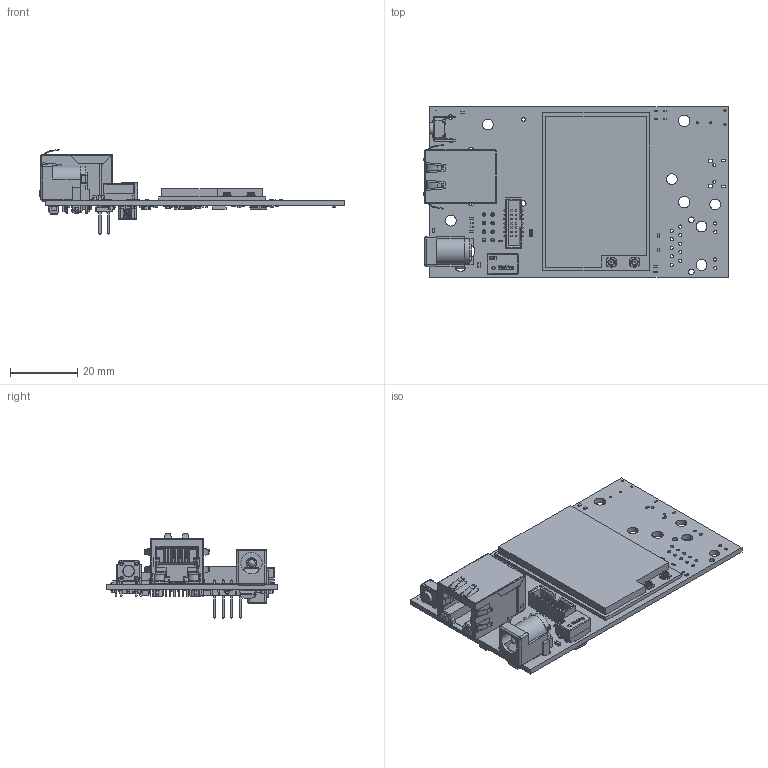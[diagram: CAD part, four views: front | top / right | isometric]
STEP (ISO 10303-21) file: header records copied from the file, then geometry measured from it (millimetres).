
FILE_DESCRIPTION(('Open CASCADE Model'),'2;1');
FILE_NAME('Open CASCADE Shape Model','2016-12-14T13:45:05',('Author'),( 'Open CASCADE'),'Open CASCADE STEP processor 6.8','Open CASCADE 6.8' ,'Unknown');
FILE_SCHEMA(('AUTOMOTIVE_DESIGN { 1 0 10303 214 1 1 1 1 }'));
Length unit declared in the file: millimetre
Products named in the file (179): PCB; Board; R53; User_Library-SMD_RESISTOR-0603; R51; User_Library-res0402-1; R50; R49; R48; C43; User_Library-cap_1206-1; R19; R43; R1; C1; User_Library-cap_0402; C2; C3; C4; C5; C6; C7; C8; C19; C20; C21; C23; User_Library-cap_0603-1; C24; C25; C26; C27; C28; C29; C30; C31; C32; User_Library-cap_0805-1; C33; C34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
Assembly tree (289 placements, depth 5):
  PCB
    Board
    R53
      User_Library-SMD_RESISTOR-0603
    R51
      User_Library-res0402-1
    R50
      User_Library-res0402-1
    R49
      User_Library-res0402-1
    R48
      User_Library-res0402-1
    C43
      User_Library-cap_1206-1
    R19
      User_Library-res0402-1
    R43
      User_Library-res0402-1
    R1
      User_Library-res0402-1
    C1
      User_Library-cap_0402
    C2
      User_Library-cap_0402
    C3
      User_Library-cap_0402
    C4
      User_Library-cap_0402
    C5
      User_Library-cap_0402
    C6
      User_Library-cap_0402
    C7
      User_Library-cap_0402
    C8
      User_Library-cap_0402
    C19
      User_Library-cap_0402
    C20
      User_Library-cap_0402
    C21
      User_Library-cap_0402
    C23
      User_Library-cap_0603-1
    C24
      User_Library-cap_0402
    C25
      User_Library-cap_0402
    C26
      User_Library-cap_0402
    C27
      User_Library-cap_0603-1
    C28
      User_Library-cap_0402
    C29
      User_Library-cap_0402
    C30
      User_Library-cap_0402
    C31
      User_Library-cap_1206-1
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Bounding box: 90.56 x 50.8 x 25.49 mm (x, y, z)
Volume: 12598.6 mm3; surface area: 25557.7 mm2
Topology: 231 solids, 1234 shells, 8010 faces, 22905 edges, 16070 vertices
Faces by surface type: plane 5248, cylinder 2038, sphere 308, bspline 295, torus 80, extrusion 30, revolution 9, cone 2
Full cylindrical faces by diameter (mm): 0.125 x2, 0.2 x1, 0.4 x2, 0.6 x4, 0.8 x6, 0.85 x4, 0.925 x26, 1 x1, 1.025 x14, 1.1 x1, 1.325 x2, 1.5 x3, 1.6 x1, 1.625 x4, 1.75 x1, 1.8 x1, 2 x6, 3.2 x6, 3.225 x4, 3.425 x2, 3.5 x1, 3.55 x1, 6.4 x1
Entity records: 401141 total; most frequent: CARTESIAN_POINT 176947, DIRECTION 34087, VECTOR 21841, LINE 21811, ORIENTED_EDGE 19067, PCURVE 19067, DEFINITIONAL_REPRESENTATION 19067, EDGE_CURVE 12286
